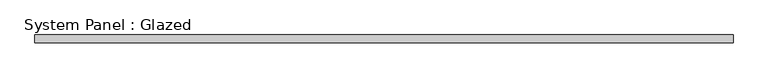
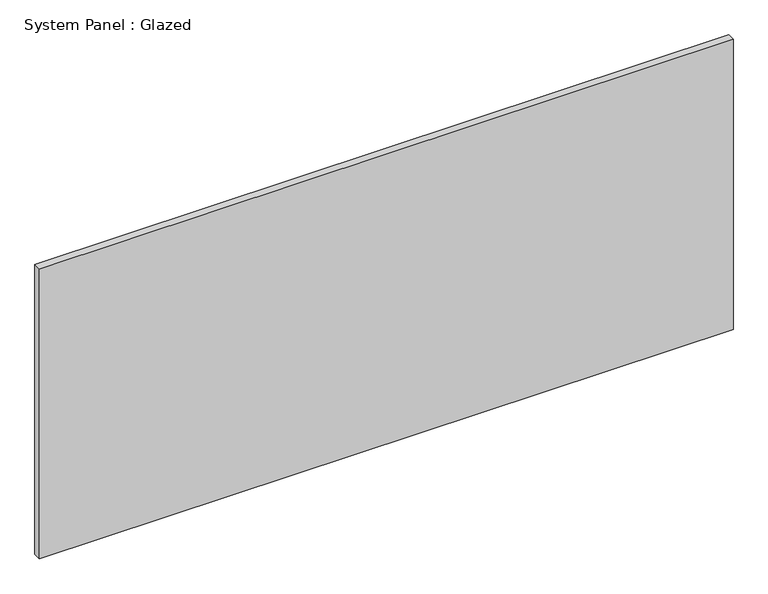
"""IFC4 building model written with IfcOpenShell, lengths in millimetres: plate geometry, System Panel : Glazed."""

from ifc_helpers import new_model, si_unit, origin, origin_with_axes, place, context, project, spatial, polyline, outline, extrude, source, transform, mapped, element, save


def system_panel_glazed_742ad3c2(model_context):
    return source(origin(), model_context, "Body", "SweptSolid", [
        extrude(outline(polyline([(1133.7439234, 19.05), (-1133.7439234, 19.05), (-1133.7439234, 44.45), (1133.7439234, 44.45), (1133.7439234, 19.05)])), origin_with_axes(), (0.0, 0.0, 1.0), 1003.3),
    ])


if __name__ == "__main__":
    model = new_model("IFC4")
    model_context = context("Model", 3, world=origin())
    ifc_project = project(units=[si_unit("LENGTHUNIT", "METRE", prefix="MILLI")], contexts=[model_context])
    site = spatial("IfcSite", under=ifc_project)
    building = spatial("IfcBuilding", under=site)
    placement = place(None, origin())
    system_panel_glazed_shape = system_panel_glazed_742ad3c2(model_context)
    element("IfcPlate", 1, ObjectType="System Panel : Glazed", at=placement, inside=building, context=model_context, shape_type="MappedRepresentation", body=[
        mapped(system_panel_glazed_shape, transform((0.0, 0.0, 0.0), x_axis=(1.0, 0.0, 0.0), y_axis=(0.0, 1.0, 0.0), z_axis=(0.0, 0.0, 1.0))),
    ])
    save(model, "model.ifc")
